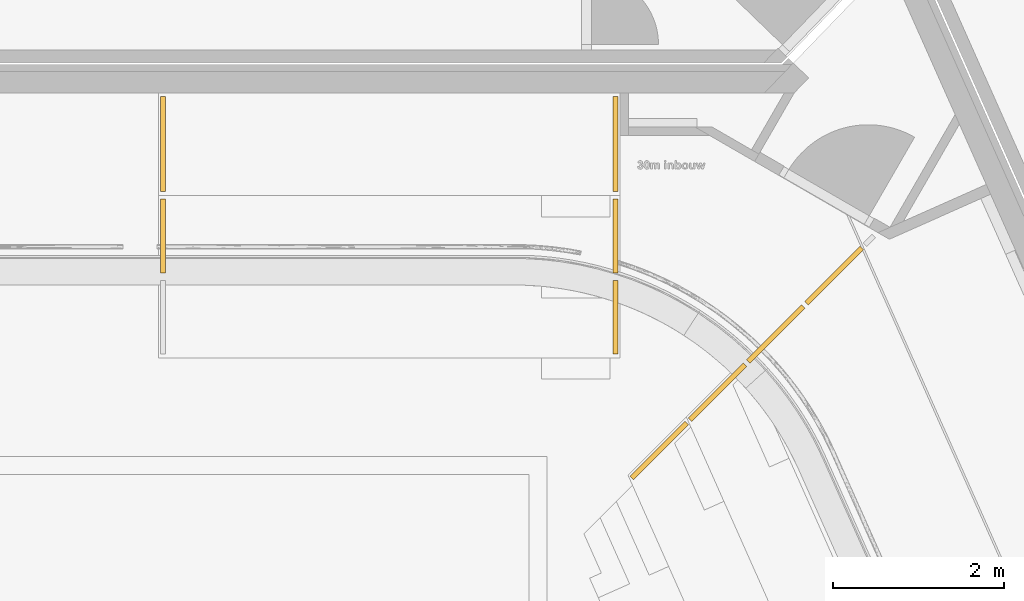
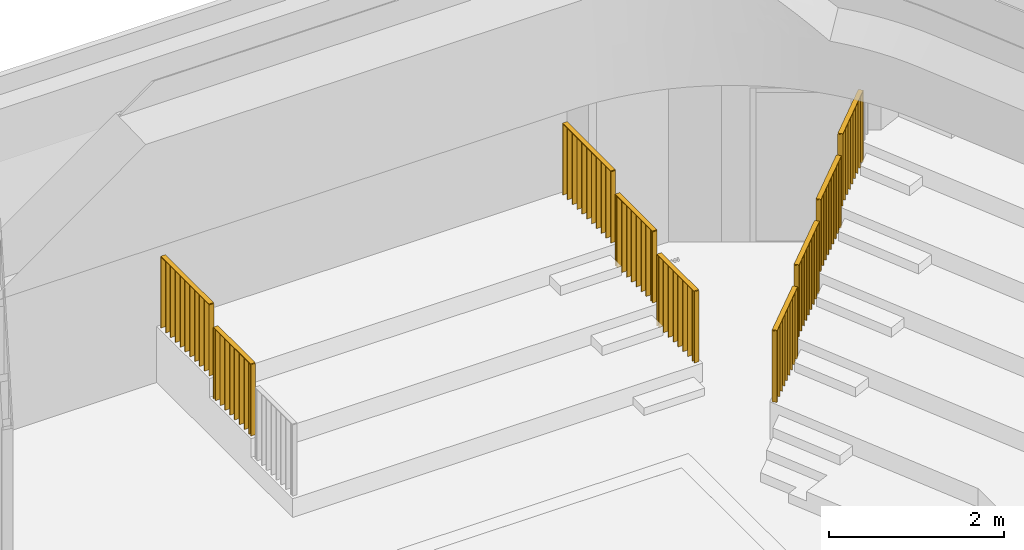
# One storey, part 16 of 19: 9 railings.
"""IFC2X3 building model written with IfcOpenShell, lengths in millimetres."""

from ifc_helpers import new_model, entity, si_unit, converted_unit, derived_unit, direction, frame, frame_2d, origin, origin_2d_with_axis, place, context, subcontext, project, spatial, rectangle, extrude, material, material_list, element, save


model = new_model("IFC2X3")

# Units and contexts
model_context = context("Model", 3, precision=0.01, world=origin(), true_north=direction((6.123031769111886e-17, 1.0)))
body_context = subcontext(model_context, "Body", "Model", "MODEL_VIEW")
ifc_project = project(units=[si_unit("LENGTHUNIT", "METRE", prefix="MILLI"), si_unit("AREAUNIT", "SQUARE_METRE"), si_unit("VOLUMEUNIT", "CUBIC_METRE"), converted_unit("PLANEANGLEUNIT", "DEGREE", entity("IfcRatioMeasure", 0.017453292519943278), si_unit("PLANEANGLEUNIT", "RADIAN"), dimensions=[0, 0, 0, 0, 0, 0, 0]), si_unit("MASSUNIT", "GRAM", prefix="KILO"), derived_unit("MASSDENSITYUNIT", [(si_unit("MASSUNIT", "GRAM", prefix="KILO"), 1), (si_unit("LENGTHUNIT", "METRE"), -3)]), derived_unit("MOMENTOFINERTIAUNIT", [(si_unit("LENGTHUNIT", "METRE"), 4)]), si_unit("TIMEUNIT", "SECOND"), si_unit("FREQUENCYUNIT", "HERTZ"), si_unit("THERMODYNAMICTEMPERATUREUNIT", "DEGREE_CELSIUS"), derived_unit("THERMALTRANSMITTANCEUNIT", [(si_unit("MASSUNIT", "GRAM", prefix="KILO"), 1), (si_unit("THERMODYNAMICTEMPERATUREUNIT", "KELVIN"), -1), (si_unit("TIMEUNIT", "SECOND"), -3)]), derived_unit("VOLUMETRICFLOWRATEUNIT", [(si_unit("LENGTHUNIT", "METRE"), 3), (si_unit("TIMEUNIT", "SECOND"), -1)]), derived_unit("MASSFLOWRATEUNIT", [(si_unit("MASSUNIT", "GRAM", prefix="KILO"), 1), (si_unit("TIMEUNIT", "SECOND"), -1)]), derived_unit("ROTATIONALFREQUENCYUNIT", [(si_unit("TIMEUNIT", "SECOND"), -1)]), si_unit("ELECTRICCURRENTUNIT", "AMPERE"), si_unit("ELECTRICVOLTAGEUNIT", "VOLT"), si_unit("POWERUNIT", "WATT"), si_unit("FORCEUNIT", "NEWTON", prefix="KILO"), si_unit("ILLUMINANCEUNIT", "LUX"), si_unit("LUMINOUSFLUXUNIT", "LUMEN"), si_unit("LUMINOUSINTENSITYUNIT", "CANDELA"), derived_unit("USERDEFINED", [(si_unit("MASSUNIT", "GRAM", prefix="KILO"), -1), (si_unit("LENGTHUNIT", "METRE"), -2), (si_unit("TIMEUNIT", "SECOND"), 3), (si_unit("LUMINOUSFLUXUNIT", "LUMEN"), 1)]), derived_unit("SOUNDPOWERUNIT", [(si_unit("MASSUNIT", "GRAM", prefix="KILO"), 1), (si_unit("LENGTHUNIT", "METRE"), 2), (si_unit("TIMEUNIT", "SECOND"), -3)]), derived_unit("SOUNDPRESSUREUNIT", [(si_unit("MASSUNIT", "GRAM", prefix="KILO"), 1), (si_unit("LENGTHUNIT", "METRE"), -1), (si_unit("TIMEUNIT", "SECOND"), -2)]), derived_unit("LINEARVELOCITYUNIT", [(si_unit("LENGTHUNIT", "METRE"), 1), (si_unit("TIMEUNIT", "SECOND"), -1)]), si_unit("PRESSUREUNIT", "PASCAL"), derived_unit("USERDEFINED", [(si_unit("LENGTHUNIT", "METRE"), -2), (si_unit("MASSUNIT", "GRAM", prefix="KILO"), 1), (si_unit("TIMEUNIT", "SECOND"), -2)]), derived_unit("LINEARFORCEUNIT", [(si_unit("MASSUNIT", "GRAM", prefix="KILO"), 1), (si_unit("LENGTHUNIT", "METRE"), 1), (si_unit("TIMEUNIT", "SECOND"), -2), (si_unit("LENGTHUNIT", "METRE"), -1)]), derived_unit("PLANARFORCEUNIT", [(si_unit("MASSUNIT", "GRAM", prefix="KILO"), 1), (si_unit("LENGTHUNIT", "METRE"), 1), (si_unit("TIMEUNIT", "SECOND"), -2), (si_unit("LENGTHUNIT", "METRE"), -2)])], contexts=[model_context])

# Site, building, storey
site_placement = place(None, frame((-10000.0, -10000.0, 0.0)))
site = spatial("IfcSite", under=ifc_project, at=site_placement, Name="Default", CompositionType="ELEMENT")
building_placement = place(site_placement, origin())
building = spatial("IfcBuilding", under=site, at=building_placement, CompositionType="ELEMENT")
storey_placement = place(building_placement, frame((0.0, 0.0, 4200.0)))
storey = spatial("IfcBuildingStorey", under=building, at=storey_placement, Name="01 1e verdieping", CompositionType="ELEMENT", Elevation=4200.000000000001)

# Railings
ifc_material = material(Name="Default Metal")
ifc_material_list_1 = material_list([ifc_material, ifc_material, ifc_material, ifc_material, ifc_material, ifc_material, ifc_material, ifc_material, ifc_material, ifc_material, ifc_material, ifc_material])
railing_1_placement = place(storey_placement, origin())
element("IfcRailing", 1, at=railing_1_placement, inside=storey, material=ifc_material_list_1, Name="Railing:NLRS_34_RAI_spijlenhekwerk hoofdtribune", ObjectType="Railing:NLRS_34_RAI_spijlenhekwerk hoofdtribune", PredefinedType="NOTDEFINED", context=body_context, shape_type="SweptSolid", body=[
    extrude(rectangle(XDim=9.999999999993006, YDim=59.99999999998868, at=origin_2d_with_axis()), frame((37477.77277227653, 45279.98022781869, 545.0), z_axis=(0.0, 0.0, 1.0), x_axis=(0.707106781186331, 0.7071067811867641, 0.0)), (0.0, 0.0, 1.0), 989.9999999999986),
    extrude(rectangle(XDim=9.999999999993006, YDim=59.99999999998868, at=origin_2d_with_axis()), frame((37399.991026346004, 45202.19848188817, 545.0), z_axis=(0.0, 0.0, 1.0), x_axis=(0.707106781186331, 0.7071067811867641, 0.0)), (0.0, 0.0, 1.0), 989.9999999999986),
    extrude(rectangle(XDim=9.999999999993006, YDim=59.99999999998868, at=origin_2d_with_axis()), frame((37322.20928041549, 45124.416735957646, 545.0), z_axis=(0.0, 0.0, 1.0), x_axis=(0.707106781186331, 0.7071067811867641, 0.0)), (0.0, 0.0, 1.0), 989.9999999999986),
    extrude(rectangle(XDim=9.999999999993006, YDim=59.99999999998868, at=origin_2d_with_axis()), frame((37244.42753448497, 45046.63499002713, 545.0), z_axis=(0.0, 0.0, 1.0), x_axis=(0.707106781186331, 0.7071067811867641, 0.0)), (0.0, 0.0, 1.0), 989.9999999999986),
    extrude(rectangle(XDim=9.999999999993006, YDim=59.99999999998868, at=origin_2d_with_axis()), frame((37166.645788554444, 44968.853244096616, 545.0), z_axis=(0.0, 0.0, 1.0), x_axis=(0.707106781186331, 0.7071067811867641, 0.0)), (0.0, 0.0, 1.0), 989.9999999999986),
    extrude(rectangle(XDim=9.999999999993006, YDim=59.99999999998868, at=origin_2d_with_axis()), frame((37088.86404262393, 44891.071498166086, 545.0), z_axis=(0.0, 0.0, 1.0), x_axis=(0.707106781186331, 0.7071067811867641, 0.0)), (0.0, 0.0, 1.0), 989.9999999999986),
    extrude(rectangle(XDim=9.999999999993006, YDim=59.99999999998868, at=origin_2d_with_axis()), frame((37011.08229669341, 44813.28975223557, 545.0), z_axis=(0.0, 0.0, 1.0), x_axis=(0.707106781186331, 0.7071067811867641, 0.0)), (0.0, 0.0, 1.0), 989.9999999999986),
    extrude(rectangle(XDim=9.999999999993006, YDim=59.99999999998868, at=origin_2d_with_axis()), frame((36933.300550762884, 44735.50800630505, 545.0), z_axis=(0.0, 0.0, 1.0), x_axis=(0.707106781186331, 0.7071067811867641, 0.0)), (0.0, 0.0, 1.0), 989.9999999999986),
    extrude(rectangle(XDim=9.999999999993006, YDim=59.99999999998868, at=origin_2d_with_axis()), frame((36855.51880483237, 44657.72626037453, 545.0), z_axis=(0.0, 0.0, 1.0), x_axis=(0.707106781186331, 0.7071067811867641, 0.0)), (0.0, 0.0, 1.0), 989.9999999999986),
    extrude(rectangle(XDim=9.999999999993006, YDim=59.99999999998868, at=origin_2d_with_axis()), frame((37484.8438400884, 45287.051295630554, 545.0), z_axis=(0.0, 0.0, 1.0), x_axis=(0.707106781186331, 0.7071067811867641, 0.0)), (0.0, 0.0, 1.0), 989.9999999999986),
    extrude(rectangle(XDim=9.999999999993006, YDim=59.99999999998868, at=origin_2d_with_axis()), frame((36848.4477370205, 44650.65519256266, 545.0), z_axis=(0.0, 0.0, 1.0), x_axis=(0.707106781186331, 0.7071067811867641, 0.0)), (0.0, 0.0, 1.0), 989.9999999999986),
    extrude(rectangle(XDim=899.9999999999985, YDim=60.00000000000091, at=frame_2d((-1.5347723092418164e-12, -4.5847770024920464e-12), x_axis=(1.0, 0.0))), frame((37166.645788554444, 44968.853244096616, 1535.0), z_axis=(0.0, 0.0, 1.0), x_axis=(0.70710678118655, 0.7071067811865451, 0.0)), (0.0, 0.0, 1.0), 9.999999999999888),
])
ifc_material_list_2 = material_list([ifc_material, ifc_material, ifc_material, ifc_material, ifc_material, ifc_material, ifc_material, ifc_material, ifc_material, ifc_material, ifc_material, ifc_material])
railing_2_placement = place(storey_placement, origin())
element("IfcRailing", 2, at=railing_2_placement, inside=storey, material=ifc_material_list_2, Name="Railing:NLRS_34_RAI_spijlenhekwerk hoofdtribune", ObjectType="Railing:NLRS_34_RAI_spijlenhekwerk hoofdtribune", PredefinedType="NOTDEFINED", context=body_context, shape_type="SweptSolid", body=[
    extrude(rectangle(XDim=9.999999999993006, YDim=59.99999999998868, at=origin_2d_with_axis()), frame((38159.4452720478, 45961.65272758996, 805.0), z_axis=(0.0, 0.0, 1.0), x_axis=(0.707106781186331, 0.7071067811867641, 0.0)), (0.0, 0.0, 1.0), 989.9999999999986),
    extrude(rectangle(XDim=9.999999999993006, YDim=59.99999999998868, at=origin_2d_with_axis()), frame((38081.66352611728, 45883.87098165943, 805.0), z_axis=(0.0, 0.0, 1.0), x_axis=(0.707106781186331, 0.7071067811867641, 0.0)), (0.0, 0.0, 1.0), 989.9999999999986),
    extrude(rectangle(XDim=9.999999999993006, YDim=59.99999999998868, at=origin_2d_with_axis()), frame((38003.881780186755, 45806.08923572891, 805.0), z_axis=(0.0, 0.0, 1.0), x_axis=(0.707106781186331, 0.7071067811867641, 0.0)), (0.0, 0.0, 1.0), 989.9999999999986),
    extrude(rectangle(XDim=9.999999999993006, YDim=59.99999999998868, at=origin_2d_with_axis()), frame((37926.10003425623, 45728.30748979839, 805.0), z_axis=(0.0, 0.0, 1.0), x_axis=(0.707106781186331, 0.7071067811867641, 0.0)), (0.0, 0.0, 1.0), 989.9999999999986),
    extrude(rectangle(XDim=9.999999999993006, YDim=59.99999999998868, at=origin_2d_with_axis()), frame((37848.31828832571, 45650.525743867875, 805.0), z_axis=(0.0, 0.0, 1.0), x_axis=(0.707106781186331, 0.7071067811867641, 0.0)), (0.0, 0.0, 1.0), 989.9999999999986),
    extrude(rectangle(XDim=9.999999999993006, YDim=59.99999999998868, at=origin_2d_with_axis()), frame((37770.536542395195, 45572.74399793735, 805.0), z_axis=(0.0, 0.0, 1.0), x_axis=(0.707106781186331, 0.7071067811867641, 0.0)), (0.0, 0.0, 1.0), 989.9999999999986),
    extrude(rectangle(XDim=9.999999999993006, YDim=59.99999999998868, at=origin_2d_with_axis()), frame((37692.75479646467, 45494.96225200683, 805.0), z_axis=(0.0, 0.0, 1.0), x_axis=(0.707106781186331, 0.7071067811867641, 0.0)), (0.0, 0.0, 1.0), 989.9999999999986),
    extrude(rectangle(XDim=9.999999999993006, YDim=59.99999999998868, at=origin_2d_with_axis()), frame((37614.97305053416, 45417.180506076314, 805.0), z_axis=(0.0, 0.0, 1.0), x_axis=(0.707106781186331, 0.7071067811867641, 0.0)), (0.0, 0.0, 1.0), 989.9999999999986),
    extrude(rectangle(XDim=9.999999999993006, YDim=59.99999999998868, at=origin_2d_with_axis()), frame((37537.191304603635, 45339.39876014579, 805.0), z_axis=(0.0, 0.0, 1.0), x_axis=(0.707106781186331, 0.7071067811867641, 0.0)), (0.0, 0.0, 1.0), 989.9999999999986),
    extrude(rectangle(XDim=9.999999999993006, YDim=59.99999999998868, at=origin_2d_with_axis()), frame((38166.51633985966, 45968.72379540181, 805.0), z_axis=(0.0, 0.0, 1.0), x_axis=(0.707106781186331, 0.7071067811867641, 0.0)), (0.0, 0.0, 1.0), 989.9999999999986),
    extrude(rectangle(XDim=9.999999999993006, YDim=59.99999999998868, at=origin_2d_with_axis()), frame((37530.120236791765, 45332.32769233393, 805.0), z_axis=(0.0, 0.0, 1.0), x_axis=(0.707106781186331, 0.7071067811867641, 0.0)), (0.0, 0.0, 1.0), 989.9999999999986),
    extrude(rectangle(XDim=899.9999999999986, YDim=60.00000000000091, at=frame_2d((4.604316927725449e-12, 1.5401013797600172e-12), x_axis=(1.0, 0.0))), frame((37848.31828832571, 45650.52574386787, 1795.0), z_axis=(0.0, 0.0, 1.0), x_axis=(0.70710678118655, 0.7071067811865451, 0.0)), (0.0, 0.0, 1.0), 9.999999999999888),
])
ifc_material_list_3 = material_list([ifc_material, ifc_material, ifc_material, ifc_material, ifc_material, ifc_material, ifc_material, ifc_material, ifc_material, ifc_material, ifc_material, ifc_material])
railing_3_placement = place(storey_placement, origin())
element("IfcRailing", 3, at=railing_3_placement, inside=storey, material=ifc_material_list_3, Name="Railing:NLRS_34_RAI_spijlenhekwerk hoofdtribune", ObjectType="Railing:NLRS_34_RAI_spijlenhekwerk hoofdtribune", PredefinedType="NOTDEFINED", context=body_context, shape_type="SweptSolid", body=[
    extrude(rectangle(XDim=9.999999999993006, YDim=59.99999999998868, at=origin_2d_with_axis()), frame((38841.117771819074, 46643.32522736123, 1065.0), z_axis=(0.0, 0.0, 1.0), x_axis=(0.707106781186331, 0.7071067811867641, 0.0)), (0.0, 0.0, 1.0), 989.9999999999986),
    extrude(rectangle(XDim=9.999999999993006, YDim=59.99999999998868, at=origin_2d_with_axis()), frame((38763.33602588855, 46565.5434814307, 1065.0), z_axis=(0.0, 0.0, 1.0), x_axis=(0.707106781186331, 0.7071067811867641, 0.0)), (0.0, 0.0, 1.0), 989.9999999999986),
    extrude(rectangle(XDim=9.999999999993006, YDim=59.99999999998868, at=origin_2d_with_axis()), frame((38685.554279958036, 46487.761735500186, 1065.0), z_axis=(0.0, 0.0, 1.0), x_axis=(0.707106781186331, 0.7071067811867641, 0.0)), (0.0, 0.0, 1.0), 989.9999999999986),
    extrude(rectangle(XDim=9.999999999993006, YDim=59.99999999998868, at=origin_2d_with_axis()), frame((38607.772534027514, 46409.97998956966, 1065.0), z_axis=(0.0, 0.0, 1.0), x_axis=(0.707106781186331, 0.7071067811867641, 0.0)), (0.0, 0.0, 1.0), 989.9999999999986),
    extrude(rectangle(XDim=9.999999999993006, YDim=59.99999999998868, at=origin_2d_with_axis()), frame((38529.99078809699, 46332.19824363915, 1065.0), z_axis=(0.0, 0.0, 1.0), x_axis=(0.707106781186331, 0.7071067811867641, 0.0)), (0.0, 0.0, 1.0), 989.9999999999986),
    extrude(rectangle(XDim=9.999999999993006, YDim=59.99999999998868, at=origin_2d_with_axis()), frame((38452.20904216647, 46254.41649770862, 1065.0), z_axis=(0.0, 0.0, 1.0), x_axis=(0.707106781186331, 0.7071067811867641, 0.0)), (0.0, 0.0, 1.0), 989.9999999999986),
    extrude(rectangle(XDim=9.999999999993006, YDim=59.99999999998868, at=origin_2d_with_axis()), frame((38374.42729623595, 46176.6347517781, 1065.0), z_axis=(0.0, 0.0, 1.0), x_axis=(0.707106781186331, 0.7071067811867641, 0.0)), (0.0, 0.0, 1.0), 989.9999999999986),
    extrude(rectangle(XDim=9.999999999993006, YDim=59.99999999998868, at=origin_2d_with_axis()), frame((38296.64555030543, 46098.85300584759, 1065.0), z_axis=(0.0, 0.0, 1.0), x_axis=(0.707106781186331, 0.7071067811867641, 0.0)), (0.0, 0.0, 1.0), 989.9999999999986),
    extrude(rectangle(XDim=9.999999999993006, YDim=59.99999999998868, at=origin_2d_with_axis()), frame((38218.86380437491, 46021.071259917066, 1065.0), z_axis=(0.0, 0.0, 1.0), x_axis=(0.707106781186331, 0.7071067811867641, 0.0)), (0.0, 0.0, 1.0), 989.9999999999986),
    extrude(rectangle(XDim=9.999999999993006, YDim=59.99999999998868, at=origin_2d_with_axis()), frame((38848.18883963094, 46650.39629517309, 1065.0), z_axis=(0.0, 0.0, 1.0), x_axis=(0.707106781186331, 0.7071067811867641, 0.0)), (0.0, 0.0, 1.0), 989.9999999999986),
    extrude(rectangle(XDim=9.999999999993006, YDim=59.99999999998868, at=origin_2d_with_axis()), frame((38211.792736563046, 46014.000192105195, 1065.0), z_axis=(0.0, 0.0, 1.0), x_axis=(0.707106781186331, 0.7071067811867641, 0.0)), (0.0, 0.0, 1.0), 989.9999999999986),
    extrude(rectangle(XDim=899.9999999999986, YDim=60.00000000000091, at=frame_2d((4.604316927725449e-12, 1.5401013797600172e-12), x_axis=(1.0, 0.0))), frame((38529.99078809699, 46332.19824363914, 2055.0), z_axis=(0.0, 0.0, 1.0), x_axis=(0.70710678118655, 0.7071067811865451, 0.0)), (0.0, 0.0, 1.0), 9.999999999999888),
])
ifc_material_list_4 = material_list([ifc_material, ifc_material, ifc_material, ifc_material, ifc_material, ifc_material, ifc_material, ifc_material, ifc_material, ifc_material, ifc_material, ifc_material])
railing_4_placement = place(storey_placement, origin())
element("IfcRailing", 4, at=railing_4_placement, inside=storey, material=ifc_material_list_4, Name="Railing:NLRS_34_RAI_spijlenhekwerk hoofdtribune", ObjectType="Railing:NLRS_34_RAI_spijlenhekwerk hoofdtribune", PredefinedType="NOTDEFINED", context=body_context, shape_type="SweptSolid", body=[
    extrude(rectangle(XDim=10.00000000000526, YDim=59.999999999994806, at=origin_2d_with_axis()), frame((39522.79027159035, 47324.9977271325, 1325.0), z_axis=(0.0, 0.0, 1.0), x_axis=(0.7071067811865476, 0.7071067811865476, 0.0)), (0.0, 0.0, 1.0), 989.9999999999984),
    extrude(rectangle(XDim=10.00000000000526, YDim=59.999999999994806, at=origin_2d_with_axis()), frame((39445.008525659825, 47247.215981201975, 1325.0), z_axis=(0.0, 0.0, 1.0), x_axis=(0.7071067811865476, 0.7071067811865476, 0.0)), (0.0, 0.0, 1.0), 989.9999999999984),
    extrude(rectangle(XDim=10.00000000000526, YDim=59.999999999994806, at=origin_2d_with_axis()), frame((39367.2267797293, 47169.43423527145, 1325.0), z_axis=(0.0, 0.0, 1.0), x_axis=(0.7071067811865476, 0.7071067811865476, 0.0)), (0.0, 0.0, 1.0), 989.9999999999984),
    extrude(rectangle(XDim=10.00000000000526, YDim=59.999999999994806, at=origin_2d_with_axis()), frame((39289.44503379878, 47091.65248934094, 1325.0), z_axis=(0.0, 0.0, 1.0), x_axis=(0.7071067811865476, 0.7071067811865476, 0.0)), (0.0, 0.0, 1.0), 989.9999999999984),
    extrude(rectangle(XDim=10.00000000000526, YDim=59.999999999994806, at=origin_2d_with_axis()), frame((39211.663287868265, 47013.87074341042, 1325.0), z_axis=(0.0, 0.0, 1.0), x_axis=(0.7071067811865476, 0.7071067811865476, 0.0)), (0.0, 0.0, 1.0), 989.9999999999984),
    extrude(rectangle(XDim=10.00000000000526, YDim=59.999999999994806, at=origin_2d_with_axis()), frame((39133.88154193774, 46936.08899747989, 1325.0), z_axis=(0.0, 0.0, 1.0), x_axis=(0.7071067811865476, 0.7071067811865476, 0.0)), (0.0, 0.0, 1.0), 989.9999999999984),
    extrude(rectangle(XDim=10.00000000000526, YDim=59.999999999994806, at=origin_2d_with_axis()), frame((39056.09979600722, 46858.30725154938, 1325.0), z_axis=(0.0, 0.0, 1.0), x_axis=(0.7071067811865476, 0.7071067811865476, 0.0)), (0.0, 0.0, 1.0), 989.9999999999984),
    extrude(rectangle(XDim=9.999999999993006, YDim=59.99999999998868, at=origin_2d_with_axis()), frame((38978.318050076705, 46780.525505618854, 1325.0), z_axis=(0.0, 0.0, 1.0), x_axis=(0.707106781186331, 0.7071067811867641, 0.0)), (0.0, 0.0, 1.0), 989.9999999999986),
    extrude(rectangle(XDim=9.999999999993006, YDim=59.99999999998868, at=origin_2d_with_axis()), frame((38900.53630414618, 46702.74375968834, 1325.0), z_axis=(0.0, 0.0, 1.0), x_axis=(0.707106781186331, 0.7071067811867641, 0.0)), (0.0, 0.0, 1.0), 989.9999999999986),
    extrude(rectangle(XDim=10.00000000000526, YDim=59.999999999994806, at=origin_2d_with_axis()), frame((39529.8613394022, 47332.06879494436, 1325.0), z_axis=(0.0, 0.0, 1.0), x_axis=(0.7071067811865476, 0.7071067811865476, 0.0)), (0.0, 0.0, 1.0), 989.9999999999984),
    extrude(rectangle(XDim=9.999999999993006, YDim=59.99999999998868, at=origin_2d_with_axis()), frame((38893.46523633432, 46695.67269187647, 1325.0), z_axis=(0.0, 0.0, 1.0), x_axis=(0.707106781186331, 0.7071067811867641, 0.0)), (0.0, 0.0, 1.0), 989.9999999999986),
    extrude(rectangle(XDim=899.9999999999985, YDim=60.000000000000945, at=frame_2d((-1.5347723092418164e-12, 1.5241141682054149e-12), x_axis=(1.0, 0.0))), frame((39211.663287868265, 47013.87074341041, 2315.0), z_axis=(0.0, 0.0, 1.0), x_axis=(0.70710678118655, 0.7071067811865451, 0.0)), (0.0, 0.0, 1.0), 9.999999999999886),
])
ifc_material_list_5 = material_list([ifc_material, ifc_material, ifc_material, ifc_material, ifc_material, ifc_material, ifc_material, ifc_material, ifc_material, ifc_material, ifc_material])
railing_5_placement = place(storey_placement, origin())
element("IfcRailing", 5, at=railing_5_placement, inside=storey, material=ifc_material_list_5, Name="Railing:NLRS_34_RAI_spijlenhekwerk hoofdtribune", ObjectType="Railing:NLRS_34_RAI_spijlenhekwerk hoofdtribune", PredefinedType="NOTDEFINED", context=body_context, shape_type="SweptSolid", body=[
    extrude(rectangle(XDim=60.00000000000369, YDim=9.999999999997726, at=origin_2d_with_axis()), frame((36655.0, 46912.0, 285.0)), (0.0, 0.0, 1.0), 989.9999999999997),
    extrude(rectangle(XDim=60.00000000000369, YDim=9.999999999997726, at=origin_2d_with_axis()), frame((36655.0, 46802.0, 285.0)), (0.0, 0.0, 1.0), 989.9999999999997),
    extrude(rectangle(XDim=60.00000000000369, YDim=9.999999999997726, at=origin_2d_with_axis()), frame((36655.0, 46692.0, 285.0)), (0.0, 0.0, 1.0), 989.9999999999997),
    extrude(rectangle(XDim=60.00000000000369, YDim=9.999999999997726, at=origin_2d_with_axis()), frame((36655.0, 46582.0, 285.0)), (0.0, 0.0, 1.0), 989.9999999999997),
    extrude(rectangle(XDim=60.00000000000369, YDim=9.999999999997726, at=origin_2d_with_axis()), frame((36655.0, 46472.0, 285.0)), (0.0, 0.0, 1.0), 989.9999999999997),
    extrude(rectangle(XDim=60.00000000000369, YDim=9.999999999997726, at=origin_2d_with_axis()), frame((36655.0, 46362.0, 285.0)), (0.0, 0.0, 1.0), 989.9999999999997),
    extrude(rectangle(XDim=60.00000000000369, YDim=9.999999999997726, at=origin_2d_with_axis()), frame((36655.0, 46252.0, 285.0)), (0.0, 0.0, 1.0), 989.9999999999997),
    extrude(rectangle(XDim=60.00000000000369, YDim=9.999999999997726, at=origin_2d_with_axis()), frame((36655.0, 46142.0, 285.0)), (0.0, 0.0, 1.0), 989.9999999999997),
    extrude(rectangle(XDim=60.00000000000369, YDim=9.999999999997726, at=origin_2d_with_axis()), frame((36655.0, 46952.0, 285.0)), (0.0, 0.0, 1.0), 989.9999999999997),
    extrude(rectangle(XDim=60.00000000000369, YDim=9.999999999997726, at=origin_2d_with_axis()), frame((36655.0, 46102.0, 285.0)), (0.0, 0.0, 1.0), 989.9999999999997),
    extrude(rectangle(XDim=850.000000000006, YDim=59.99999999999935, at=frame_2d((4.320099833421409e-12, 0.0), x_axis=(1.0, 0.0))), frame((36655.0, 46527.0, 1275.0), z_axis=(0.0, 0.0, 1.0), x_axis=(0.0, 1.0, 0.0)), (0.0, 0.0, 1.0), 9.999999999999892),
])
ifc_material_list_6 = material_list([ifc_material, ifc_material, ifc_material, ifc_material, ifc_material, ifc_material, ifc_material, ifc_material, ifc_material, ifc_material, ifc_material])
railing_6_placement = place(storey_placement, origin())
element("IfcRailing", 6, at=railing_6_placement, inside=storey, material=ifc_material_list_6, Name="Railing:NLRS_34_RAI_spijlenhekwerk hoofdtribune", ObjectType="Railing:NLRS_34_RAI_spijlenhekwerk hoofdtribune", PredefinedType="NOTDEFINED", context=body_context, shape_type="SweptSolid", body=[
    extrude(rectangle(XDim=9.999999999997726, YDim=59.99999999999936, at=origin_2d_with_axis()), frame((36655.0, 47092.0, 545.0), z_axis=(0.0, 0.0, 1.0), x_axis=(0.0, -1.0, 0.0)), (0.0, 0.0, 1.0), 989.9999999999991),
    extrude(rectangle(XDim=9.999999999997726, YDim=59.99999999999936, at=origin_2d_with_axis()), frame((36655.0, 47202.0, 545.0), z_axis=(0.0, 0.0, 1.0), x_axis=(0.0, -1.0, 0.0)), (0.0, 0.0, 1.0), 989.9999999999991),
    extrude(rectangle(XDim=9.999999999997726, YDim=59.99999999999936, at=origin_2d_with_axis()), frame((36655.0, 47312.0, 545.0), z_axis=(0.0, 0.0, 1.0), x_axis=(0.0, -1.0, 0.0)), (0.0, 0.0, 1.0), 989.9999999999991),
    extrude(rectangle(XDim=9.999999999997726, YDim=59.99999999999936, at=origin_2d_with_axis()), frame((36655.0, 47422.0, 545.0), z_axis=(0.0, 0.0, 1.0), x_axis=(0.0, -1.0, 0.0)), (0.0, 0.0, 1.0), 989.9999999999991),
    extrude(rectangle(XDim=9.999999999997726, YDim=59.99999999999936, at=origin_2d_with_axis()), frame((36655.0, 47532.0, 545.0), z_axis=(0.0, 0.0, 1.0), x_axis=(0.0, -1.0, 0.0)), (0.0, 0.0, 1.0), 989.9999999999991),
    extrude(rectangle(XDim=9.999999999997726, YDim=59.99999999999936, at=origin_2d_with_axis()), frame((36655.0, 47642.0, 545.0), z_axis=(0.0, 0.0, 1.0), x_axis=(0.0, -1.0, 0.0)), (0.0, 0.0, 1.0), 989.9999999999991),
    extrude(rectangle(XDim=9.999999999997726, YDim=59.99999999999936, at=origin_2d_with_axis()), frame((36655.0, 47752.0, 545.0), z_axis=(0.0, 0.0, 1.0), x_axis=(0.0, -1.0, 0.0)), (0.0, 0.0, 1.0), 989.9999999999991),
    extrude(rectangle(XDim=9.999999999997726, YDim=59.99999999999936, at=origin_2d_with_axis()), frame((36655.0, 47862.0, 545.0), z_axis=(0.0, 0.0, 1.0), x_axis=(0.0, -1.0, 0.0)), (0.0, 0.0, 1.0), 989.9999999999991),
    extrude(rectangle(XDim=9.999999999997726, YDim=59.99999999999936, at=origin_2d_with_axis()), frame((36655.0, 47052.0, 545.0), z_axis=(0.0, 0.0, 1.0), x_axis=(0.0, -1.0, 0.0)), (0.0, 0.0, 1.0), 989.9999999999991),
    extrude(rectangle(XDim=9.999999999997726, YDim=59.99999999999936, at=origin_2d_with_axis()), frame((36655.0, 47902.0, 545.0), z_axis=(0.0, 0.0, 1.0), x_axis=(0.0, -1.0, 0.0)), (0.0, 0.0, 1.0), 989.9999999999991),
    extrude(rectangle(XDim=849.9999999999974, YDim=59.99999999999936, at=frame_2d((0.0, 2.1653789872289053e-12), x_axis=(1.0, 0.0))), frame((36655.0, 47477.0, 1535.0), z_axis=(0.0, 0.0, 1.0), x_axis=(0.0, -1.0, 0.0)), (0.0, 0.0, 1.0), 9.999999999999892),
])
ifc_material_list_7 = material_list([ifc_material, ifc_material, ifc_material, ifc_material, ifc_material, ifc_material, ifc_material, ifc_material, ifc_material, ifc_material, ifc_material])
railing_7_placement = place(storey_placement, origin())
element("IfcRailing", 7, at=railing_7_placement, inside=storey, material=ifc_material_list_7, Name="Railing:NLRS_34_RAI_spijlenhekwerk hoofdtribune", ObjectType="Railing:NLRS_34_RAI_spijlenhekwerk hoofdtribune", PredefinedType="NOTDEFINED", context=body_context, shape_type="SweptSolid", body=[
    extrude(rectangle(XDim=60.00000000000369, YDim=9.999999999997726, at=origin_2d_with_axis()), frame((31365.0, 47092.0, 545.0), z_axis=(0.0, 0.0, 1.0), x_axis=(-1.0, 0.0, 0.0)), (0.0, 0.0, 1.0), 989.9999999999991),
    extrude(rectangle(XDim=60.00000000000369, YDim=9.999999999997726, at=origin_2d_with_axis()), frame((31365.0, 47202.0, 545.0), z_axis=(0.0, 0.0, 1.0), x_axis=(-1.0, 0.0, 0.0)), (0.0, 0.0, 1.0), 989.9999999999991),
    extrude(rectangle(XDim=60.00000000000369, YDim=9.999999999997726, at=origin_2d_with_axis()), frame((31365.0, 47312.0, 545.0), z_axis=(0.0, 0.0, 1.0), x_axis=(-1.0, 0.0, 0.0)), (0.0, 0.0, 1.0), 989.9999999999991),
    extrude(rectangle(XDim=60.00000000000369, YDim=9.999999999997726, at=origin_2d_with_axis()), frame((31365.0, 47422.0, 545.0), z_axis=(0.0, 0.0, 1.0), x_axis=(-1.0, 0.0, 0.0)), (0.0, 0.0, 1.0), 989.9999999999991),
    extrude(rectangle(XDim=60.00000000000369, YDim=9.999999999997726, at=origin_2d_with_axis()), frame((31365.0, 47532.0, 545.0), z_axis=(0.0, 0.0, 1.0), x_axis=(-1.0, 0.0, 0.0)), (0.0, 0.0, 1.0), 989.9999999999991),
    extrude(rectangle(XDim=60.00000000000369, YDim=9.999999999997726, at=origin_2d_with_axis()), frame((31365.0, 47642.0, 545.0), z_axis=(0.0, 0.0, 1.0), x_axis=(-1.0, 0.0, 0.0)), (0.0, 0.0, 1.0), 989.9999999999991),
    extrude(rectangle(XDim=60.00000000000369, YDim=9.999999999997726, at=origin_2d_with_axis()), frame((31365.0, 47752.0, 545.0), z_axis=(0.0, 0.0, 1.0), x_axis=(-1.0, 0.0, 0.0)), (0.0, 0.0, 1.0), 989.9999999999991),
    extrude(rectangle(XDim=60.00000000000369, YDim=9.999999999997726, at=origin_2d_with_axis()), frame((31365.0, 47862.0, 545.0), z_axis=(0.0, 0.0, 1.0), x_axis=(-1.0, 0.0, 0.0)), (0.0, 0.0, 1.0), 989.9999999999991),
    extrude(rectangle(XDim=60.00000000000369, YDim=9.999999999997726, at=origin_2d_with_axis()), frame((31365.0, 47052.0, 545.0), z_axis=(0.0, 0.0, 1.0), x_axis=(-1.0, 0.0, 0.0)), (0.0, 0.0, 1.0), 989.9999999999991),
    extrude(rectangle(XDim=60.00000000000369, YDim=9.999999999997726, at=origin_2d_with_axis()), frame((31365.0, 47902.0, 545.0), z_axis=(0.0, 0.0, 1.0), x_axis=(-1.0, 0.0, 0.0)), (0.0, 0.0, 1.0), 989.9999999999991),
    extrude(rectangle(XDim=849.9999999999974, YDim=59.99999999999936, at=frame_2d((0.0, -2.1653789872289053e-12), x_axis=(1.0, 0.0))), frame((31365.0, 47477.0, 1535.0), z_axis=(0.0, 0.0, 1.0), x_axis=(0.0, -1.0, 0.0)), (0.0, 0.0, 1.0), 9.999999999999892),
])
ifc_material_list_8 = material_list([ifc_material, ifc_material, ifc_material, ifc_material, ifc_material, ifc_material, ifc_material, ifc_material, ifc_material, ifc_material, ifc_material, ifc_material])
railing_8_placement = place(storey_placement, origin())
element("IfcRailing", 8, at=railing_8_placement, inside=storey, material=ifc_material_list_8, Name="Railing:NLRS_34_RAI_spijlenhekwerk hoofdtribune", ObjectType="Railing:NLRS_34_RAI_spijlenhekwerk hoofdtribune", PredefinedType="NOTDEFINED", context=body_context, shape_type="SweptSolid", body=[
    extrude(rectangle(XDim=60.00000000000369, YDim=9.999999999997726, at=frame_2d((-4.330757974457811e-12, 0.0), x_axis=(1.0, 0.0))), frame((31365.0, 48112.0, 805.0), z_axis=(0.0, 0.0, 1.0), x_axis=(-1.0, 0.0, 0.0)), (0.0, 0.0, 1.0), 989.9999999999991),
    extrude(rectangle(XDim=60.00000000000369, YDim=9.999999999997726, at=frame_2d((-4.330757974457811e-12, 0.0), x_axis=(1.0, 0.0))), frame((31365.0, 48222.0, 805.0), z_axis=(0.0, 0.0, 1.0), x_axis=(-1.0, 0.0, 0.0)), (0.0, 0.0, 1.0), 989.9999999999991),
    extrude(rectangle(XDim=60.00000000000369, YDim=9.999999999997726, at=frame_2d((-4.330757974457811e-12, 0.0), x_axis=(1.0, 0.0))), frame((31365.0, 48332.0, 805.0), z_axis=(0.0, 0.0, 1.0), x_axis=(-1.0, 0.0, 0.0)), (0.0, 0.0, 1.0), 989.9999999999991),
    extrude(rectangle(XDim=60.00000000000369, YDim=9.999999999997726, at=frame_2d((-4.330757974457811e-12, 0.0), x_axis=(1.0, 0.0))), frame((31365.0, 48442.0, 805.0), z_axis=(0.0, 0.0, 1.0), x_axis=(-1.0, 0.0, 0.0)), (0.0, 0.0, 1.0), 989.9999999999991),
    extrude(rectangle(XDim=60.00000000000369, YDim=9.999999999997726, at=frame_2d((-4.330757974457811e-12, 0.0), x_axis=(1.0, 0.0))), frame((31365.0, 48552.0, 805.0), z_axis=(0.0, 0.0, 1.0), x_axis=(-1.0, 0.0, 0.0)), (0.0, 0.0, 1.0), 989.9999999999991),
    extrude(rectangle(XDim=60.00000000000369, YDim=9.999999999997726, at=frame_2d((-4.330757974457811e-12, 0.0), x_axis=(1.0, 0.0))), frame((31365.0, 48662.0, 805.0), z_axis=(0.0, 0.0, 1.0), x_axis=(-1.0, 0.0, 0.0)), (0.0, 0.0, 1.0), 989.9999999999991),
    extrude(rectangle(XDim=60.00000000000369, YDim=9.999999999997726, at=frame_2d((-4.330757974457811e-12, 0.0), x_axis=(1.0, 0.0))), frame((31365.0, 48772.0, 805.0), z_axis=(0.0, 0.0, 1.0), x_axis=(-1.0, 0.0, 0.0)), (0.0, 0.0, 1.0), 989.9999999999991),
    extrude(rectangle(XDim=60.00000000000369, YDim=9.999999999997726, at=frame_2d((-4.330757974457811e-12, 0.0), x_axis=(1.0, 0.0))), frame((31365.0, 48882.0, 805.0), z_axis=(0.0, 0.0, 1.0), x_axis=(-1.0, 0.0, 0.0)), (0.0, 0.0, 1.0), 989.9999999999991),
    extrude(rectangle(XDim=60.00000000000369, YDim=9.999999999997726, at=frame_2d((-4.330757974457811e-12, 0.0), x_axis=(1.0, 0.0))), frame((31365.0, 48992.0, 805.0), z_axis=(0.0, 0.0, 1.0), x_axis=(-1.0, 0.0, 0.0)), (0.0, 0.0, 1.0), 989.9999999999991),
    extrude(rectangle(XDim=60.00000000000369, YDim=9.999999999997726, at=frame_2d((-4.330757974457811e-12, 0.0), x_axis=(1.0, 0.0))), frame((31365.0, 48002.0, 805.0), z_axis=(0.0, 0.0, 1.0), x_axis=(-1.0, 0.0, 0.0)), (0.0, 0.0, 1.0), 989.9999999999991),
    extrude(rectangle(XDim=60.00000000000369, YDim=9.999999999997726, at=frame_2d((-4.330757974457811e-12, 0.0), x_axis=(1.0, 0.0))), frame((31365.0, 49102.0, 805.0), z_axis=(0.0, 0.0, 1.0), x_axis=(-1.0, 0.0, 0.0)), (0.0, 0.0, 1.0), 989.9999999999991),
    extrude(rectangle(XDim=1100.0000000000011, YDim=59.99999999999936, at=frame_2d((-4.320099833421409e-12, 2.1653789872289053e-12), x_axis=(1.0, 0.0))), frame((31365.0, 48552.0, 1795.0), z_axis=(0.0, 0.0, 1.0), x_axis=(0.0, -1.0, 0.0)), (0.0, 0.0, 1.0), 9.999999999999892),
])
ifc_material_list_9 = material_list([ifc_material, ifc_material, ifc_material, ifc_material, ifc_material, ifc_material, ifc_material, ifc_material, ifc_material, ifc_material, ifc_material, ifc_material])
railing_9_placement = place(storey_placement, origin())
element("IfcRailing", 9, at=railing_9_placement, inside=storey, material=ifc_material_list_9, Name="Railing:NLRS_34_RAI_spijlenhekwerk hoofdtribune", ObjectType="Railing:NLRS_34_RAI_spijlenhekwerk hoofdtribune", PredefinedType="NOTDEFINED", context=body_context, shape_type="SweptSolid", body=[
    extrude(rectangle(XDim=9.999999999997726, YDim=59.99999999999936, at=origin_2d_with_axis()), frame((36655.0, 48112.0, 805.0), z_axis=(0.0, 0.0, 1.0), x_axis=(0.0, -1.0, 0.0)), (0.0, 0.0, 1.0), 989.9999999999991),
    extrude(rectangle(XDim=9.999999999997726, YDim=59.99999999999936, at=origin_2d_with_axis()), frame((36655.0, 48222.0, 805.0), z_axis=(0.0, 0.0, 1.0), x_axis=(0.0, -1.0, 0.0)), (0.0, 0.0, 1.0), 989.9999999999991),
    extrude(rectangle(XDim=9.999999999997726, YDim=59.99999999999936, at=origin_2d_with_axis()), frame((36655.0, 48332.0, 805.0), z_axis=(0.0, 0.0, 1.0), x_axis=(0.0, -1.0, 0.0)), (0.0, 0.0, 1.0), 989.9999999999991),
    extrude(rectangle(XDim=9.999999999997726, YDim=59.99999999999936, at=origin_2d_with_axis()), frame((36655.0, 48442.0, 805.0), z_axis=(0.0, 0.0, 1.0), x_axis=(0.0, -1.0, 0.0)), (0.0, 0.0, 1.0), 989.9999999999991),
    extrude(rectangle(XDim=9.999999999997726, YDim=59.99999999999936, at=origin_2d_with_axis()), frame((36655.0, 48552.0, 805.0), z_axis=(0.0, 0.0, 1.0), x_axis=(0.0, -1.0, 0.0)), (0.0, 0.0, 1.0), 989.9999999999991),
    extrude(rectangle(XDim=9.999999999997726, YDim=59.99999999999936, at=origin_2d_with_axis()), frame((36655.0, 48662.0, 805.0), z_axis=(0.0, 0.0, 1.0), x_axis=(0.0, -1.0, 0.0)), (0.0, 0.0, 1.0), 989.9999999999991),
    extrude(rectangle(XDim=9.999999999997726, YDim=59.99999999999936, at=origin_2d_with_axis()), frame((36655.0, 48772.0, 805.0), z_axis=(0.0, 0.0, 1.0), x_axis=(0.0, -1.0, 0.0)), (0.0, 0.0, 1.0), 989.9999999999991),
    extrude(rectangle(XDim=9.999999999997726, YDim=59.99999999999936, at=origin_2d_with_axis()), frame((36655.0, 48882.0, 805.0), z_axis=(0.0, 0.0, 1.0), x_axis=(0.0, -1.0, 0.0)), (0.0, 0.0, 1.0), 989.9999999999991),
    extrude(rectangle(XDim=9.999999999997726, YDim=59.99999999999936, at=origin_2d_with_axis()), frame((36655.0, 48992.0, 805.0), z_axis=(0.0, 0.0, 1.0), x_axis=(0.0, -1.0, 0.0)), (0.0, 0.0, 1.0), 989.9999999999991),
    extrude(rectangle(XDim=9.999999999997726, YDim=59.99999999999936, at=origin_2d_with_axis()), frame((36655.0, 48002.0, 805.0), z_axis=(0.0, 0.0, 1.0), x_axis=(0.0, -1.0, 0.0)), (0.0, 0.0, 1.0), 989.9999999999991),
    extrude(rectangle(XDim=9.999999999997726, YDim=59.99999999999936, at=origin_2d_with_axis()), frame((36655.0, 49102.0, 805.0), z_axis=(0.0, 0.0, 1.0), x_axis=(0.0, -1.0, 0.0)), (0.0, 0.0, 1.0), 989.9999999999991),
    extrude(rectangle(XDim=1100.0000000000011, YDim=59.99999999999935, at=frame_2d((4.320099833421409e-12, 0.0), x_axis=(1.0, 0.0))), frame((36655.0, 48552.0, 1795.0), z_axis=(0.0, 0.0, 1.0), x_axis=(0.0, -1.0, 0.0)), (0.0, 0.0, 1.0), 9.999999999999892),
])

save(model, "model.ifc")
